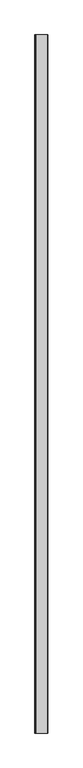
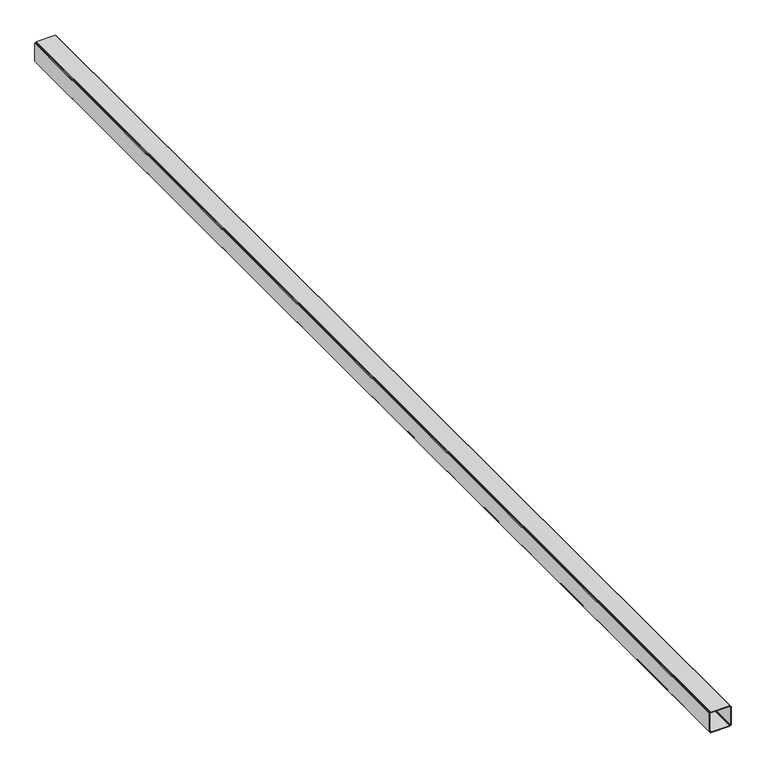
"""IFC4 building model written with IfcOpenShell, lengths in millimetres: beam geometry, Lisse acrot?re 192500 : Lisse acrot?re 192500."""

from ifc_helpers import new_model, si_unit, frame, origin, place, context, project, spatial, polyline, outline, extrude, source, transform, mapped, element, save


def beam_13a36071(model_context):
    return source(origin(), model_context, "Body", "SweptSolid", [
        extrude(outline(polyline([(8456.0, -180.0000001), (8453.0, -179.1961526), (8450.8038476, -177.0000001), (8450.0, -174.0000001), (8450.0, -86.0000001), (8450.8038476, -83.0000001), (8453.0, -80.8038477), (8456.0, -80.0000001), (8544.0, -80.0000001), (8547.0, -80.8038477), (8549.1961524, -83.0000001), (8550.0, -86.0000001), (8550.0, -174.0000001), (8549.1961524, -177.0000001), (8547.0, -179.1961526), (8544.0, -180.0000001), (8456.0, -180.0000001)]), holes=[polyline([(8542.0, -176.0000001), (8544.0, -175.4641017), (8545.4641016, -174.0000001), (8546.0, -172.0000001), (8546.0, -88.0000001), (8545.4641016, -86.0000001), (8544.0, -84.5358985), (8542.0, -84.0000001), (8458.0, -84.0000001), (8456.0, -84.5358985), (8454.5358984, -86.0000001), (8454.0, -88.0000001), (8454.0, -172.0000001), (8454.5358984, -174.0000001), (8456.0, -175.4641017), (8458.0, -176.0000001), (8542.0, -176.0000001)])]), frame((0.0, -39900.0, 0.0), z_axis=(0.0, 1.0, 0.0), x_axis=(0.0, 0.0, 1.0)), (0.0, 0.0, 1.0), 5415.0),
    ])


if __name__ == "__main__":
    model = new_model("IFC4")
    model_context = context("Model", 3, world=origin())
    ifc_project = project(units=[si_unit("LENGTHUNIT", "METRE", prefix="MILLI")], contexts=[model_context])
    site = spatial("IfcSite", under=ifc_project)
    building = spatial("IfcBuilding", under=site)
    placement = place(None, origin())
    beam_shape = beam_13a36071(model_context)
    element("IfcBeam", 1, ObjectType="Lisse acrot?re 192500 : Lisse acrot?re 192500", at=placement, inside=building, context=model_context, shape_type="MappedRepresentation", body=[
        mapped(beam_shape, transform((0.0, 0.0, 0.0), x_axis=(1.0, 0.0, 0.0), y_axis=(0.0, 1.0, 0.0), z_axis=(0.0, 0.0, 1.0))),
    ])
    save(model, "model.ifc")
